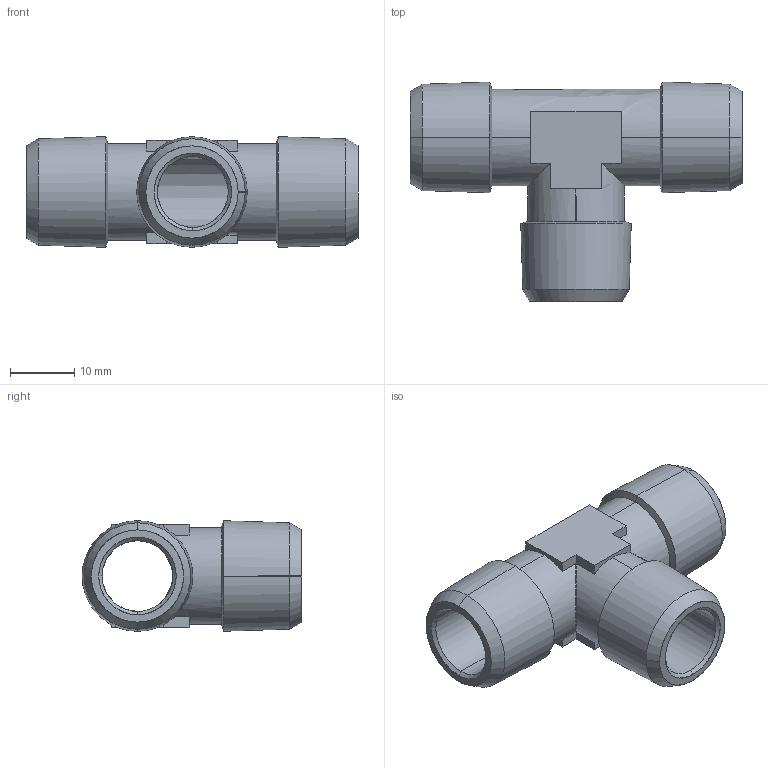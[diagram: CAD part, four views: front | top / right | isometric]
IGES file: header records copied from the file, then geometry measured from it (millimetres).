
Start section: SolidWorks IGES file using analytic representation for surfaces
Global section: file name: K:\Disegni Esecutivi\Accessori\4010\0401000010400.IGS; native system: SolidWorks 2007; preprocessor: SolidWorks 2007; author: cad02; date: 071023.114630; units: millimetre
Bounding box: 51.5 x 34.08 x 17.16 mm (x, y, z)
Surface area: 6243.1 mm2 (no closed solid volume)
Topology: 0 solids, 0 shells, 56 faces, 592 edges, 592 vertices
Faces by surface type: revolution 35, bspline 21
